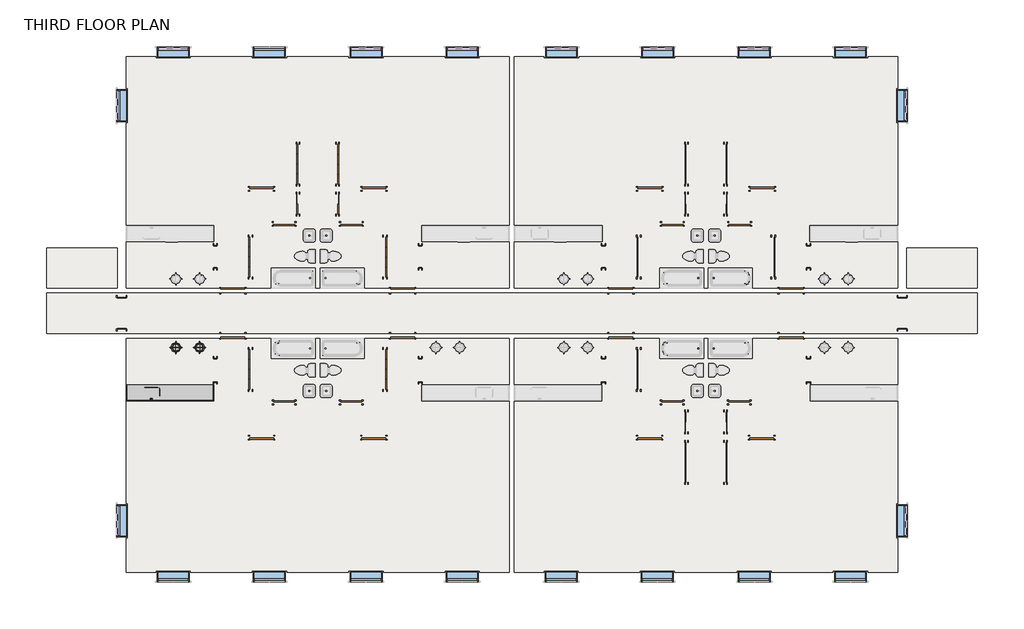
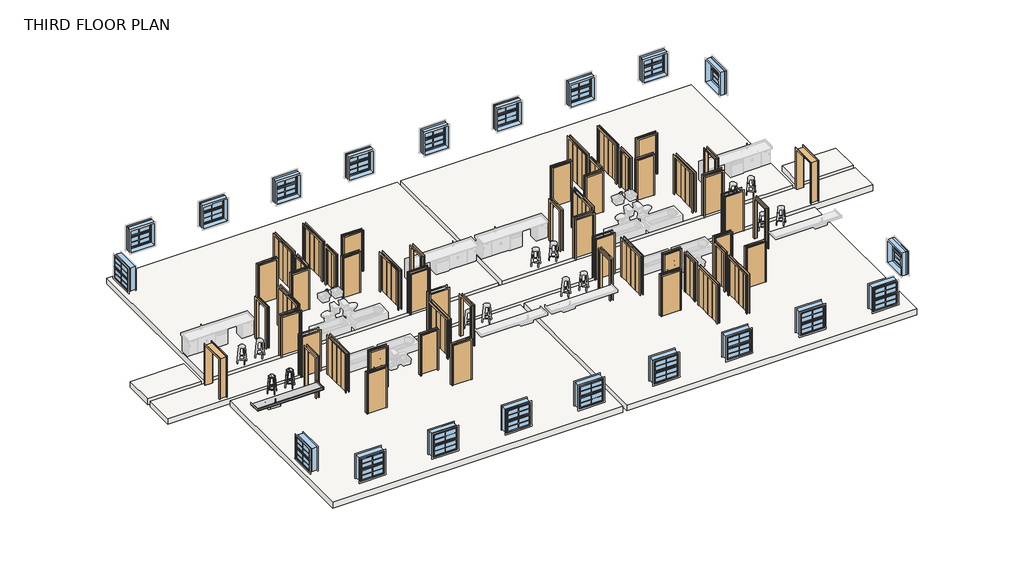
# One storey, part 1 of 3: 57 doors, 20 windows, 3 furniture elements, 3 slabs, 1 flow terminal.
"""IFC4 building model written with IfcOpenShell, lengths in millimetres."""

from ifc_helpers import new_model, si_unit, frame, origin, place, context, project, spatial, polyline, outline, extrude, transform, mapped, element, save
from components import door_3f50ce46, door_64f38517, door_5b7037ea, door_d932cd56, door_980512ef, door_37c67c65, door_ff2ed9a9, door_670c294a, door_0b3bd6c5, door_c8d27089, door_5d578f69, door_dc1527fd, door_ed16ebbe, door_053de108, door_d5256492, door_e5d25033, door_70d702ca, lsy_sink_1a_83b20bf5, lsy_bench_top_24dx36h_2ddf329b, lab_stool_lab_stool_8e3c4d68, lab_stool_lab_stool_061d08b2, window_4464fd46, window_28d7aabf

model = new_model("IFC4")

# Units and contexts
model_context = context("Model", 3, world=origin())
ifc_project = project(units=[si_unit("LENGTHUNIT", "METRE", prefix="MILLI")], contexts=[model_context])

# Site, building, storey
site = spatial("IfcSite", under=ifc_project)
building = spatial("IfcBuilding", under=site)
storey = spatial("IfcBuildingStorey", under=building, Name="THIRD FLOOR PLAN", Elevation=5689.6)

# Doors
placement = place(None, origin())
door_shape = door_3f50ce46(model_context)
element("IfcDoor", 1, ObjectType="Door-Bifold_2-Panel_Flush_SlimFold_Dunbarton : 2'- 6\" x 6' - 8\"", at=placement, inside=storey, context=model_context, shape_type="MappedRepresentation", body=[
    mapped(door_shape, transform((1351.2960171, 1175.3012881, 2844.8), x_axis=(0.0, 1.0, 0.0), y_axis=(-1.0, 0.0, 0.0), z_axis=(0.0, 0.0, 1.0))),
])
element("IfcDoor", 2, ObjectType="Door-Bifold_2-Panel_Flush_SlimFold_Dunbarton : 2'- 6\" x 6' - 8\"", at=placement, inside=storey, context=model_context, shape_type="MappedRepresentation", body=[
    mapped(door_shape, transform((2885.3209578, 9830.6762881, 5689.6), x_axis=(0.0, -1.0, 0.0), y_axis=(1.0, 0.0, 0.0), z_axis=(0.0, 0.0, 1.0))),
])
element("IfcDoor", 3, ObjectType="Door-Bifold_2-Panel_Flush_SlimFold_Dunbarton : 2'- 6\" x 6' - 8\"", at=placement, inside=storey, context=model_context, shape_type="MappedRepresentation", body=[
    mapped(door_shape, transform((17708.9209578, 9830.6762881, 5689.6), x_axis=(0.0, -1.0, 0.0), y_axis=(1.0, 0.0, 0.0), z_axis=(0.0, 0.0, 1.0))),
])
element("IfcDoor", 4, ObjectType="Door-Bifold_2-Panel_Flush_SlimFold_Dunbarton : 2'- 6\" x 6' - 8\"", at=placement, inside=storey, context=model_context, shape_type="MappedRepresentation", body=[
    mapped(door_shape, transform((16176.4960171, 1200.7012881, 5689.6), x_axis=(0.0, 1.0, 0.0), y_axis=(-1.0, 0.0, 0.0), z_axis=(0.0, 0.0, 1.0))),
])
door_2_shape = door_64f38517(model_context)
element("IfcDoor", 5, ObjectType="Door-Bifold_2-Panel_Flush_SlimFold_Dunbarton : 2'- 6\" x 6' - 8\"", at=placement, inside=storey, context=model_context, shape_type="MappedRepresentation", body=[
    mapped(door_2_shape, transform((2885.3209578, 1175.3012881, 2844.8), x_axis=(0.0, 1.0, 0.0), y_axis=(-1.0, 0.0, 0.0), z_axis=(0.0, 0.0, 1.0))),
])
element("IfcDoor", 6, ObjectType="Door-Bifold_2-Panel_Flush_SlimFold_Dunbarton : 2'- 6\" x 6' - 8\"", at=placement, inside=storey, context=model_context, shape_type="MappedRepresentation", body=[
    mapped(door_2_shape, transform((1351.2960171, 9830.6762881, 5689.6), x_axis=(0.0, -1.0, 0.0), y_axis=(1.0, 0.0, 0.0), z_axis=(0.0, 0.0, 1.0))),
])
element("IfcDoor", 7, ObjectType="Door-Bifold_2-Panel_Flush_SlimFold_Dunbarton : 2'- 6\" x 6' - 8\"", at=placement, inside=storey, context=model_context, shape_type="MappedRepresentation", body=[
    mapped(door_2_shape, transform((16176.4960171, 9830.6762881, 5689.6), x_axis=(0.0, -1.0, 0.0), y_axis=(1.0, 0.0, 0.0), z_axis=(0.0, 0.0, 1.0))),
])
element("IfcDoor", 8, ObjectType="Door-Bifold_2-Panel_Flush_SlimFold_Dunbarton : 2'- 6\" x 6' - 8\"", at=placement, inside=storey, context=model_context, shape_type="MappedRepresentation", body=[
    mapped(door_2_shape, transform((17708.9209578, 1200.7012881, 5689.6), x_axis=(0.0, 1.0, 0.0), y_axis=(-1.0, 0.0, 0.0), z_axis=(0.0, 0.0, 1.0))),
])
door_3_shape = door_5b7037ea(model_context)
element("IfcDoor", 9, ObjectType="Door-Bifold 4-Panel Flush SlimFold_Dunbarton : 5'- 0\" x 6' - 8\"", at=placement, inside=storey, context=model_context, shape_type="MappedRepresentation", body=[
    mapped(door_3_shape, transform((1351.2960171, -196.2987119, 2844.8), x_axis=(0.0, 1.0, 0.0), y_axis=(-1.0, 0.0, 0.0), z_axis=(0.0, 0.0, 1.0))),
])
element("IfcDoor", 10, ObjectType="Door-Bifold 4-Panel Flush SlimFold_Dunbarton : 5'- 0\" x 6' - 8\"", at=placement, inside=storey, context=model_context, shape_type="MappedRepresentation", body=[
    mapped(door_3_shape, transform((2885.3209578, 11199.1012881, 5689.6), x_axis=(0.0, -1.0, 0.0), y_axis=(1.0, 0.0, 0.0), z_axis=(0.0, 0.0, 1.0))),
])
element("IfcDoor", 11, ObjectType="Door-Bifold 4-Panel Flush SlimFold_Dunbarton : 5'- 0\" x 6' - 8\"", at=placement, inside=storey, context=model_context, shape_type="MappedRepresentation", body=[
    mapped(door_3_shape, transform((1351.2960171, 11199.1012881, 5689.6), x_axis=(0.0, 1.0, 0.0), y_axis=(-1.0, 0.0, 0.0), z_axis=(0.0, 0.0, 1.0))),
])
element("IfcDoor", 12, ObjectType="Door-Bifold 4-Panel Flush SlimFold_Dunbarton : 5'- 0\" x 6' - 8\"", at=placement, inside=storey, context=model_context, shape_type="MappedRepresentation", body=[
    mapped(door_3_shape, transform((16176.4960171, -199.4737119, 5689.6), x_axis=(0.0, 1.0, 0.0), y_axis=(-1.0, 0.0, 0.0), z_axis=(0.0, 0.0, 1.0))),
])
element("IfcDoor", 13, ObjectType="Door-Bifold 4-Panel Flush SlimFold_Dunbarton : 5'- 0\" x 6' - 8\"", at=placement, inside=storey, context=model_context, shape_type="MappedRepresentation", body=[
    mapped(door_3_shape, transform((17708.9209578, -199.4737119, 5689.6), x_axis=(0.0, -1.0, 0.0), y_axis=(1.0, 0.0, 0.0), z_axis=(0.0, 0.0, 1.0))),
])
door_4_shape = door_d932cd56(model_context)
element("IfcDoor", 14, ObjectType="Door-Bifold 4-Panel Flush SlimFold_Dunbarton : 5'- 0\" x 6' - 8\"", at=placement, inside=storey, context=model_context, shape_type="MappedRepresentation", body=[
    mapped(door_4_shape, transform((4703.0084578, 7654.2137881, 5689.6), x_axis=(0.0, -1.0, 0.0), y_axis=(1.0, 0.0, 0.0), z_axis=(0.0, 0.0, 1.0))),
])
element("IfcDoor", 15, ObjectType="Door-Bifold 4-Panel Flush SlimFold_Dunbarton : 5'- 0\" x 6' - 8\"", at=placement, inside=storey, context=model_context, shape_type="MappedRepresentation", body=[
    mapped(door_4_shape, transform((-466.3914829, 7654.2137881, 5689.6), x_axis=(0.0, 1.0, 0.0), y_axis=(-1.0, 0.0, 0.0), z_axis=(0.0, 0.0, 1.0))),
])
element("IfcDoor", 16, ObjectType="Door-Bifold 4-Panel Flush SlimFold_Dunbarton : 5'- 0\" x 6' - 8\"", at=placement, inside=storey, context=model_context, shape_type="MappedRepresentation", body=[
    mapped(door_4_shape, transform((14358.8085171, 3345.4137881, 5689.6), x_axis=(0.0, 1.0, 0.0), y_axis=(-1.0, 0.0, 0.0), z_axis=(0.0, 0.0, 1.0))),
])
element("IfcDoor", 17, ObjectType="Door-Bifold 4-Panel Flush SlimFold_Dunbarton : 5'- 0\" x 6' - 8\"", at=placement, inside=storey, context=model_context, shape_type="MappedRepresentation", body=[
    mapped(door_4_shape, transform((-466.3914829, 3345.4137881, 5689.6), x_axis=(0.0, 1.0, 0.0), y_axis=(-1.0, 0.0, 0.0), z_axis=(0.0, 0.0, 1.0))),
])
door_5_shape = door_980512ef(model_context)
element("IfcDoor", 18, ObjectType="Door-Bifold 4-Panel Flush SlimFold_Dunbarton : 5'- 0\" x 6' - 8\"", at=placement, inside=storey, context=model_context, shape_type="MappedRepresentation", body=[
    mapped(door_5_shape, transform((14358.8085171, 7654.2137881, 5689.6), x_axis=(0.0, -1.0, 0.0), y_axis=(1.0, 0.0, 0.0), z_axis=(0.0, 0.0, 1.0))),
])
element("IfcDoor", 19, ObjectType="Door-Bifold 4-Panel Flush SlimFold_Dunbarton : 5'- 0\" x 6' - 8\"", at=placement, inside=storey, context=model_context, shape_type="MappedRepresentation", body=[
    mapped(door_5_shape, transform((19526.6084578, 7654.2137881, 5689.6), x_axis=(0.0, 1.0, 0.0), y_axis=(-1.0, 0.0, 0.0), z_axis=(0.0, 0.0, 1.0))),
])
element("IfcDoor", 20, ObjectType="Door-Bifold 4-Panel Flush SlimFold_Dunbarton : 5'- 0\" x 6' - 8\"", at=placement, inside=storey, context=model_context, shape_type="MappedRepresentation", body=[
    mapped(door_5_shape, transform((4703.0084578, 3345.4137881, 5689.6), x_axis=(0.0, 1.0, 0.0), y_axis=(-1.0, 0.0, 0.0), z_axis=(0.0, 0.0, 1.0))),
])
door_6_shape = door_37c67c65(model_context)
element("IfcDoor", 21, ObjectType="Door-Bifold 4-Panel Flush SlimFold_Dunbarton : 5'- 0\" x 6' - 8\"", at=placement, inside=storey, context=model_context, shape_type="MappedRepresentation", body=[
    mapped(door_6_shape, transform((2885.3209578, -196.2987119, 2844.8), x_axis=(0.0, 1.0, 0.0), y_axis=(-1.0, 0.0, 0.0), z_axis=(0.0, 0.0, 1.0))),
])
element("IfcDoor", 22, ObjectType="Door-Bifold 4-Panel Flush SlimFold_Dunbarton : 5'- 0\" x 6' - 8\"", at=placement, inside=storey, context=model_context, shape_type="MappedRepresentation", body=[
    mapped(door_6_shape, transform((16176.4960171, 11199.1012881, 5689.6), x_axis=(0.0, -1.0, 0.0), y_axis=(1.0, 0.0, 0.0), z_axis=(0.0, 0.0, 1.0))),
])
element("IfcDoor", 23, ObjectType="Door-Bifold 4-Panel Flush SlimFold_Dunbarton : 5'- 0\" x 6' - 8\"", at=placement, inside=storey, context=model_context, shape_type="MappedRepresentation", body=[
    mapped(door_6_shape, transform((17708.9209578, 11199.1012881, 5689.6), x_axis=(0.0, 1.0, 0.0), y_axis=(-1.0, 0.0, 0.0), z_axis=(0.0, 0.0, 1.0))),
])
door_7_shape = door_ff2ed9a9(model_context)
element("IfcDoor", 24, ObjectType="M_Opening-Cased : 2'-10\"", at=placement, inside=storey, context=model_context, shape_type="MappedRepresentation", body=[
    mapped(door_7_shape, transform((-1793.4540125, 7662.4024448, 5689.6), x_axis=(0.0, 1.0, 0.0), y_axis=(-1.0, 0.0, 0.0), z_axis=(0.0, 0.0, 1.0))),
])
element("IfcDoor", 25, ObjectType="M_Opening-Cased : 2'-10\"", at=placement, inside=storey, context=model_context, shape_type="MappedRepresentation", body=[
    mapped(door_7_shape, transform((13031.7459875, 7662.4024448, 5689.6), x_axis=(0.0, 1.0, 0.0), y_axis=(-1.0, 0.0, 0.0), z_axis=(0.0, 0.0, 1.0))),
])
door_8_shape = door_670c294a(model_context)
element("IfcDoor", 26, ObjectType="M_Opening-Cased : 2'-10\"", at=placement, inside=storey, context=model_context, shape_type="MappedRepresentation", body=[
    mapped(door_8_shape, transform((20853.6709875, 7662.4024448, 5689.6), x_axis=(0.0, 1.0, 0.0), y_axis=(-1.0, 0.0, 0.0), z_axis=(0.0, 0.0, 1.0))),
])
element("IfcDoor", 27, ObjectType="M_Opening-Cased : 2'-10\"", at=placement, inside=storey, context=model_context, shape_type="MappedRepresentation", body=[
    mapped(door_8_shape, transform((6030.0709875, 7662.4024448, 5689.6), x_axis=(0.0, 1.0, 0.0), y_axis=(-1.0, 0.0, 0.0), z_axis=(0.0, 0.0, 1.0))),
])
door_9_shape = door_0b3bd6c5(model_context)
element("IfcDoor", 28, ObjectType="M_Opening-Cased : 3'-0\"", at=placement, inside=storey, context=model_context, shape_type="MappedRepresentation", body=[
    mapped(door_9_shape, transform((-1793.4540125, 3311.8251313, 5689.6), x_axis=(0.0, -1.0, 0.0), y_axis=(1.0, 0.0, 0.0), z_axis=(0.0, 0.0, 1.0))),
])
element("IfcDoor", 29, ObjectType="M_Opening-Cased : 3'-0\"", at=placement, inside=storey, context=model_context, shape_type="MappedRepresentation", body=[
    mapped(door_9_shape, transform((13031.7459875, 3311.8251313, 5689.6), x_axis=(0.0, -1.0, 0.0), y_axis=(1.0, 0.0, 0.0), z_axis=(0.0, 0.0, 1.0))),
])
door_10_shape = door_c8d27089(model_context)
element("IfcDoor", 30, ObjectType="M_Opening-Cased : 3'-0\"", at=placement, inside=storey, context=model_context, shape_type="MappedRepresentation", body=[
    mapped(door_10_shape, transform((6030.0709875, 3311.8251313, 5689.6), x_axis=(0.0, -1.0, 0.0), y_axis=(1.0, 0.0, 0.0), z_axis=(0.0, 0.0, 1.0))),
])
element("IfcDoor", 31, ObjectType="M_Opening-Cased : 3'-0\"", at=placement, inside=storey, context=model_context, shape_type="MappedRepresentation", body=[
    mapped(door_10_shape, transform((20853.6709875, 3311.8251313, 5689.6), x_axis=(0.0, -1.0, 0.0), y_axis=(1.0, 0.0, 0.0), z_axis=(0.0, 0.0, 1.0))),
])
door_11_shape = door_5d578f69(model_context)
element("IfcDoor", 32, ObjectType="M_Opening-Cased : 4'-0\"", at=placement, inside=storey, context=model_context, shape_type="MappedRepresentation", body=[
    mapped(door_11_shape, transform((-5371.8915125, 5491.6251313, 5689.6), x_axis=(0.0, -1.0, 0.0), y_axis=(1.0, 0.0, 0.0), z_axis=(0.0, 0.0, 1.0))),
])
element("IfcDoor", 33, ObjectType="M_Opening-Cased : 4'-0\"", at=placement, inside=storey, context=model_context, shape_type="MappedRepresentation", body=[
    mapped(door_11_shape, transform((24432.1084875, 5491.6251313, 5689.6), x_axis=(0.0, -1.0, 0.0), y_axis=(1.0, 0.0, 0.0), z_axis=(0.0, 0.0, 1.0))),
])
door_12_shape = door_dc1527fd(model_context)
element("IfcDoor", 34, ObjectType="Single-Flush : 32\" X 84\"", at=placement, inside=storey, context=model_context, shape_type="MappedRepresentation", body=[
    mapped(door_12_shape, transform((834.0209875, 8909.9262881, 5689.6), x_axis=(-1.0, 0.0, 0.0), y_axis=(0.0, -1.0, 0.0), z_axis=(0.0, 0.0, 1.0))),
])
element("IfcDoor", 35, ObjectType="Single-Flush : 32\" X 84\"", at=placement, inside=storey, context=model_context, shape_type="MappedRepresentation", body=[
    mapped(door_12_shape, transform((15658.4209875, 8909.9262881, 5689.6), x_axis=(-1.0, 0.0, 0.0), y_axis=(0.0, -1.0, 0.0), z_axis=(0.0, 0.0, 1.0))),
])
element("IfcDoor", 36, ObjectType="Single-Flush : 32\" X 84\"", at=placement, inside=storey, context=model_context, shape_type="MappedRepresentation", body=[
    mapped(door_12_shape, transform((3396.4084875, 2089.7012881, 5689.6), x_axis=(1.0, 0.0, 0.0), y_axis=(0.0, 1.0, 0.0), z_axis=(0.0, 0.0, 1.0))),
])
element("IfcDoor", 37, ObjectType="Single-Flush : 32\" X 84\"", at=placement, inside=storey, context=model_context, shape_type="MappedRepresentation", body=[
    mapped(door_12_shape, transform((18210.0084875, 2089.7012881, 5689.6), x_axis=(1.0, 0.0, 0.0), y_axis=(0.0, 1.0, 0.0), z_axis=(0.0, 0.0, 1.0))),
])
door_13_shape = door_ed16ebbe(model_context)
element("IfcDoor", 38, ObjectType="Single-Flush : 32\" X 84\"", at=placement, inside=storey, context=model_context, shape_type="MappedRepresentation", body=[
    mapped(door_13_shape, transform((840.2084875, 2089.7012881, 5689.6), x_axis=(-1.0, 0.0, 0.0), y_axis=(0.0, -1.0, 0.0), z_axis=(0.0, 0.0, 1.0))),
])
element("IfcDoor", 39, ObjectType="Single-Flush : 32\" X 84\"", at=placement, inside=storey, context=model_context, shape_type="MappedRepresentation", body=[
    mapped(door_13_shape, transform((3402.5959875, 8909.9262881, 5689.6), x_axis=(1.0, 0.0, 0.0), y_axis=(0.0, 1.0, 0.0), z_axis=(0.0, 0.0, 1.0))),
])
element("IfcDoor", 40, ObjectType="Single-Flush : 32\" X 84\"", at=placement, inside=storey, context=model_context, shape_type="MappedRepresentation", body=[
    mapped(door_13_shape, transform((18226.9959875, 8909.9262881, 5689.6), x_axis=(1.0, 0.0, 0.0), y_axis=(0.0, 1.0, 0.0), z_axis=(0.0, 0.0, 1.0))),
])
element("IfcDoor", 41, ObjectType="Single-Flush : 32\" X 84\"", at=placement, inside=storey, context=model_context, shape_type="MappedRepresentation", body=[
    mapped(door_13_shape, transform((15653.8084875, 2089.7012881, 5689.6), x_axis=(-1.0, 0.0, 0.0), y_axis=(0.0, -1.0, 0.0), z_axis=(0.0, 0.0, 1.0))),
])
door_14_shape = door_053de108(model_context)
element("IfcDoor", 42, ObjectType="Single-Flush : 36' x 84\"", at=placement, inside=storey, context=model_context, shape_type="MappedRepresentation", body=[
    mapped(door_14_shape, transform((-1121.9415125, 4636.2137881, 5689.6), x_axis=(-1.0, 0.0, 0.0), y_axis=(0.0, -1.0, 0.0), z_axis=(0.0, 0.0, 1.0))),
])
element("IfcDoor", 43, ObjectType="Single-Flush : 36' x 84\"", at=placement, inside=storey, context=model_context, shape_type="MappedRepresentation", body=[
    mapped(door_14_shape, transform((5358.5584875, 6363.4137881, 5689.6), x_axis=(1.0, 0.0, 0.0), y_axis=(0.0, 1.0, 0.0), z_axis=(0.0, 0.0, 1.0))),
])
element("IfcDoor", 44, ObjectType="Single-Flush : 36' x 84\"", at=placement, inside=storey, context=model_context, shape_type="MappedRepresentation", body=[
    mapped(door_14_shape, transform((13691.6584875, 4636.2137881, 5689.6), x_axis=(-1.0, 0.0, 0.0), y_axis=(0.0, -1.0, 0.0), z_axis=(0.0, 0.0, 1.0))),
])
element("IfcDoor", 45, ObjectType="Single-Flush : 36' x 84\"", at=placement, inside=storey, context=model_context, shape_type="MappedRepresentation", body=[
    mapped(door_14_shape, transform((20193.7584875, 6363.4137881, 5689.6), x_axis=(1.0, 0.0, 0.0), y_axis=(0.0, 1.0, 0.0), z_axis=(0.0, 0.0, 1.0))),
])
door_15_shape = door_d5256492(model_context)
element("IfcDoor", 46, ObjectType="Single-Flush : 36' x 84\"", at=placement, inside=storey, context=model_context, shape_type="MappedRepresentation", body=[
    mapped(door_15_shape, transform((-1121.9415125, 6363.4137881, 5689.6), x_axis=(-1.0, 0.0, 0.0), y_axis=(0.0, -1.0, 0.0), z_axis=(0.0, 0.0, 1.0))),
])
element("IfcDoor", 47, ObjectType="Single-Flush : 36' x 84\"", at=placement, inside=storey, context=model_context, shape_type="MappedRepresentation", body=[
    mapped(door_15_shape, transform((5358.5584875, 4636.2137881, 5689.6), x_axis=(1.0, 0.0, 0.0), y_axis=(0.0, 1.0, 0.0), z_axis=(0.0, 0.0, 1.0))),
])
element("IfcDoor", 48, ObjectType="Single-Flush : 36' x 84\"", at=placement, inside=storey, context=model_context, shape_type="MappedRepresentation", body=[
    mapped(door_15_shape, transform((13691.6584875, 6363.4137881, 5689.6), x_axis=(-1.0, 0.0, 0.0), y_axis=(0.0, -1.0, 0.0), z_axis=(0.0, 0.0, 1.0))),
])
element("IfcDoor", 49, ObjectType="Single-Flush : 36' x 84\"", at=placement, inside=storey, context=model_context, shape_type="MappedRepresentation", body=[
    mapped(door_15_shape, transform((20193.7584875, 4636.2137881, 5689.6), x_axis=(1.0, 0.0, 0.0), y_axis=(0.0, 1.0, 0.0), z_axis=(0.0, 0.0, 1.0))),
])
door_16_shape = door_e5d25033(model_context)
element("IfcDoor", 50, ObjectType="Single-Flush : 36' x 84\"", at=placement, inside=storey, context=model_context, shape_type="MappedRepresentation", body=[
    mapped(door_16_shape, transform((-23.3915125, 746.6762881, 5689.6), x_axis=(-1.0, 0.0, 0.0), y_axis=(0.0, -1.0, 0.0), z_axis=(0.0, 0.0, 1.0))),
])
element("IfcDoor", 51, ObjectType="Single-Flush : 36' x 84\"", at=placement, inside=storey, context=model_context, shape_type="MappedRepresentation", body=[
    mapped(door_16_shape, transform((14790.2084875, 746.6762881, 5689.6), x_axis=(-1.0, 0.0, 0.0), y_axis=(0.0, -1.0, 0.0), z_axis=(0.0, 0.0, 1.0))),
])
element("IfcDoor", 52, ObjectType="Single-Flush : 36' x 84\"", at=placement, inside=storey, context=model_context, shape_type="MappedRepresentation", body=[
    mapped(door_16_shape, transform((4266.1959875, 10252.9512881, 5689.6), x_axis=(1.0, 0.0, 0.0), y_axis=(0.0, 1.0, 0.0), z_axis=(0.0, 0.0, 1.0))),
])
element("IfcDoor", 53, ObjectType="Single-Flush : 36' x 84\"", at=placement, inside=storey, context=model_context, shape_type="MappedRepresentation", body=[
    mapped(door_16_shape, transform((19090.5959875, 10252.9512881, 5689.6), x_axis=(1.0, 0.0, 0.0), y_axis=(0.0, 1.0, 0.0), z_axis=(0.0, 0.0, 1.0))),
])
door_17_shape = door_70d702ca(model_context)
element("IfcDoor", 54, ObjectType="Single-Flush : 36' x 84\"", at=placement, inside=storey, context=model_context, shape_type="MappedRepresentation", body=[
    mapped(door_17_shape, transform((4260.0084875, 746.6762881, 5689.6), x_axis=(1.0, 0.0, 0.0), y_axis=(0.0, 1.0, 0.0), z_axis=(0.0, 0.0, 1.0))),
])
element("IfcDoor", 55, ObjectType="Single-Flush : 36' x 84\"", at=placement, inside=storey, context=model_context, shape_type="MappedRepresentation", body=[
    mapped(door_17_shape, transform((19073.6084875, 746.6762881, 5689.6), x_axis=(1.0, 0.0, 0.0), y_axis=(0.0, 1.0, 0.0), z_axis=(0.0, 0.0, 1.0))),
])
element("IfcDoor", 56, ObjectType="Single-Flush : 36' x 84\"", at=placement, inside=storey, context=model_context, shape_type="MappedRepresentation", body=[
    mapped(door_17_shape, transform((-29.5790125, 10252.9512881, 5689.6), x_axis=(-1.0, 0.0, 0.0), y_axis=(0.0, -1.0, 0.0), z_axis=(0.0, 0.0, 1.0))),
])
element("IfcDoor", 57, ObjectType="Single-Flush : 36' x 84\"", at=placement, inside=storey, context=model_context, shape_type="MappedRepresentation", body=[
    mapped(door_17_shape, transform((14794.8209875, 10252.9512881, 5689.6), x_axis=(-1.0, 0.0, 0.0), y_axis=(0.0, -1.0, 0.0), z_axis=(0.0, 0.0, 1.0))),
])

# Flow terminal
lsy_sink_1a_shape = lsy_sink_1a_83b20bf5(model_context)
element("IfcFlowTerminal", 58, ObjectType="LSY_Sink_1A : 25\"W x 15\"D", at=placement, inside=storey, context=model_context, shape_type="MappedRepresentation", body=[
    mapped(lsy_sink_1a_shape, transform((-4252.3057531, 2373.0341892, 5651.5), x_axis=(1.0, 0.0, 0.0), y_axis=(0.0, 1.0, 0.0), z_axis=(0.0, 0.0, 1.0))),
])

# Furniture
lsy_bench_top_24dx36h_shape = lsy_bench_top_24dx36h_2ddf329b(model_context)
element("IfcFurniture", 59, ObjectType="LSY_Bench Top : 24Dx36H", at=placement, inside=storey, context=model_context, shape_type="MappedRepresentation", body=[
    mapped(lsy_bench_top_24dx36h_shape, transform((-3055.8288076, 1536.6137881, 5676.9), x_axis=(-1.0, 0.0, 0.0), y_axis=(0.0, -1.0, 0.0), z_axis=(0.0, 0.0, 1.0))),
])
lab_stool_lab_stool_shape = lab_stool_lab_stool_8e3c4d68(model_context)
element("IfcFurniture", 60, ObjectType="Lab Stool : Lab Stool", at=placement, inside=storey, context=model_context, shape_type="MappedRepresentation", body=[
    mapped(lab_stool_lab_stool_shape, transform((-2394.2040125, 4189.2137881, 5689.6), x_axis=(1.0, 0.0, 0.0), y_axis=(0.0, 1.0, 0.0), z_axis=(0.0, 0.0, 1.0))),
])
lab_stool_lab_stool_2_shape = lab_stool_lab_stool_061d08b2(model_context)
element("IfcFurniture", 61, ObjectType="Lab Stool : Lab Stool", at=placement, inside=storey, context=model_context, shape_type="MappedRepresentation", body=[
    mapped(lab_stool_lab_stool_2_shape, transform((-3297.4040125, 4189.2137881, 5689.6), x_axis=(-1.0, 0.0, 0.0), y_axis=(0.0, -1.0, 0.0), z_axis=(0.0, 0.0, 1.0))),
])

# Slabs
element("IfcSlab", 62, ObjectType="MultiFamilyGeneric", at=placement, inside=storey, context=model_context, shape_type="SweptSolid", body=[
    extrude(outline(polyline([(-5546.8915125, 7982.0006), (-5546.8915125, 6460.4137881), (-8237.806756, 6460.4137881), (-8237.806756, 7982.0006), (-5546.8915125, 7982.0006)])), frame((0.0, 0.0, 5384.8), z_axis=(0.0, 0.0, 1.0), x_axis=(1.0, 0.0, 0.0)), (0.0, 0.0, 1.0), 304.8),
])
element("IfcSlab", 63, ObjectType="MultiFamilyGeneric", at=placement, inside=storey, context=model_context, shape_type="SweptSolid", body=[
    extrude(outline(polyline([(24607.1084875, 7982.0006), (27308.0237309, 7982.0006), (27308.0237309, 6460.4137881), (24607.1084875, 6460.4137881), (24607.1084875, 7982.0006)])), frame((0.0, 0.0, 5384.8), z_axis=(0.0, 0.0, 1.0), x_axis=(1.0, 0.0, 0.0)), (0.0, 0.0, 1.0), 304.8),
])
element("IfcSlab", 64, ObjectType="MultiFamilyGeneric", at=placement, inside=storey, context=model_context, shape_type="SweptSolid", body=[
    extrude(outline(polyline([(9433.5084875, 15304.2137881), (9433.5084875, 6460.4137881), (-5196.8915125, 6460.4137881), (-5196.8915125, 15304.2137881), (9433.5084875, 15304.2137881)])), frame((0.0, 0.0, 5384.8), z_axis=(0.0, 0.0, 1.0), x_axis=(1.0, 0.0, 0.0)), (0.0, 0.0, 1.0), 304.8),
    extrude(outline(polyline([(24257.1084875, 15304.2137881), (24257.1084875, 6460.4137881), (9627.5084875, 6460.4137881), (9627.5084875, 15304.2137881), (24257.1084875, 15304.2137881)])), frame((0.0, 0.0, 5384.8), z_axis=(0.0, 0.0, 1.0), x_axis=(1.0, 0.0, 0.0)), (0.0, 0.0, 1.0), 304.8),
    extrude(outline(polyline([(9428.1084875, 4539.2137881), (9428.1084875, -4401.5862119), (-5196.8915125, -4401.5862119), (-5196.8915125, 4539.2137881), (9428.1084875, 4539.2137881)])), frame((0.0, 0.0, 5384.8), z_axis=(0.0, 0.0, 1.0), x_axis=(1.0, 0.0, 0.0)), (0.0, 0.0, 1.0), 304.8),
    extrude(outline(polyline([(24257.1084875, 4539.2137881), (24257.1084875, -4401.5862119), (9622.1084875, -4401.5862119), (9622.1084875, 4539.2137881), (24257.1084875, 4539.2137881)])), frame((0.0, 0.0, 5384.8), z_axis=(0.0, 0.0, 1.0), x_axis=(1.0, 0.0, 0.0)), (0.0, 0.0, 1.0), 304.8),
    extrude(outline(polyline([(27308.0237309, 6266.4137881), (27308.0237309, 4733.2137881), (-8237.806756, 4733.2137881), (-8237.806756, 6266.4137881), (27308.0237309, 6266.4137881)])), frame((0.0, 0.0, 5384.8), z_axis=(0.0, 0.0, 1.0), x_axis=(1.0, 0.0, 0.0)), (0.0, 0.0, 1.0), 304.8),
])

# Windows
window_shape = window_4464fd46(model_context)
element("IfcWindow", 65, ObjectType="Window-Awning-Double-Vertical : 48\" x 48\"", at=placement, inside=storey, context=model_context, shape_type="MappedRepresentation", body=[
    mapped(window_shape, transform((-5371.8915125, 13431.007194, 5689.6), x_axis=(0.0, 1.0, 0.0), y_axis=(-1.0, 0.0, 0.0), z_axis=(0.0, 0.0, 1.0))),
])
element("IfcWindow", 66, ObjectType="Window-Awning-Double-Vertical : 48\" x 48\"", at=placement, inside=storey, context=model_context, shape_type="MappedRepresentation", body=[
    mapped(window_shape, transform((-3399.0477625, 15479.2137881, 5689.6), x_axis=(1.0, 0.0, 0.0), y_axis=(0.0, 1.0, 0.0), z_axis=(0.0, 0.0, 1.0))),
])
element("IfcWindow", 67, ObjectType="Window-Awning-Double-Vertical : 48\" x 48\"", at=placement, inside=storey, context=model_context, shape_type="MappedRepresentation", body=[
    mapped(window_shape, transform((271.9647375, 15479.2137881, 5689.6), x_axis=(1.0, 0.0, 0.0), y_axis=(0.0, 1.0, 0.0), z_axis=(0.0, 0.0, 1.0))),
])
element("IfcWindow", 68, ObjectType="Window-Awning-Double-Vertical : 48\" x 48\"", at=placement, inside=storey, context=model_context, shape_type="MappedRepresentation", body=[
    mapped(window_shape, transform((7635.6647375, -4576.5862119, 5689.6), x_axis=(-1.0, 0.0, 0.0), y_axis=(0.0, -1.0, 0.0), z_axis=(0.0, 0.0, 1.0))),
])
element("IfcWindow", 69, ObjectType="Window-Awning-Double-Vertical : 48\" x 48\"", at=placement, inside=storey, context=model_context, shape_type="MappedRepresentation", body=[
    mapped(window_shape, transform((3964.6522375, -4576.5862119, 5689.6), x_axis=(-1.0, 0.0, 0.0), y_axis=(0.0, -1.0, 0.0), z_axis=(0.0, 0.0, 1.0))),
])
element("IfcWindow", 70, ObjectType="Window-Awning-Double-Vertical : 48\" x 48\"", at=placement, inside=storey, context=model_context, shape_type="MappedRepresentation", body=[
    mapped(window_shape, transform((24432.1084875, -2431.3796179, 5689.6), x_axis=(0.0, -1.0, 0.0), y_axis=(1.0, 0.0, 0.0), z_axis=(0.0, 0.0, 1.0))),
])
element("IfcWindow", 71, ObjectType="Window-Awning-Double-Vertical : 48\" x 48\"", at=placement, inside=storey, context=model_context, shape_type="MappedRepresentation", body=[
    mapped(window_shape, transform((22460.0647375, -4576.5862119, 5689.6), x_axis=(-1.0, 0.0, 0.0), y_axis=(0.0, -1.0, 0.0), z_axis=(0.0, 0.0, 1.0))),
])
element("IfcWindow", 72, ObjectType="Window-Awning-Double-Vertical : 48\" x 48\"", at=placement, inside=storey, context=model_context, shape_type="MappedRepresentation", body=[
    mapped(window_shape, transform((18789.0522375, -4576.5862119, 5689.6), x_axis=(-1.0, 0.0, 0.0), y_axis=(0.0, -1.0, 0.0), z_axis=(0.0, 0.0, 1.0))),
])
element("IfcWindow", 73, ObjectType="Window-Awning-Double-Vertical : 48\" x 48\"", at=placement, inside=storey, context=model_context, shape_type="MappedRepresentation", body=[
    mapped(window_shape, transform((11425.3522375, 15479.2137881, 5689.6), x_axis=(1.0, 0.0, 0.0), y_axis=(0.0, 1.0, 0.0), z_axis=(0.0, 0.0, 1.0))),
])
element("IfcWindow", 74, ObjectType="Window-Awning-Double-Vertical : 48\" x 48\"", at=placement, inside=storey, context=model_context, shape_type="MappedRepresentation", body=[
    mapped(window_shape, transform((15096.3647375, 15479.2137881, 5689.6), x_axis=(1.0, 0.0, 0.0), y_axis=(0.0, 1.0, 0.0), z_axis=(0.0, 0.0, 1.0))),
])
window_2_shape = window_28d7aabf(model_context)
element("IfcWindow", 75, ObjectType="Window-Awning-Double-Vertical : 48\" x 48\"", at=placement, inside=storey, context=model_context, shape_type="MappedRepresentation", body=[
    mapped(window_2_shape, transform((7635.6647375, 15479.2137881, 5689.6), x_axis=(-1.0, 0.0, 0.0), y_axis=(0.0, -1.0, 0.0), z_axis=(0.0, 0.0, 1.0))),
])
element("IfcWindow", 76, ObjectType="Window-Awning-Double-Vertical : 48\" x 48\"", at=placement, inside=storey, context=model_context, shape_type="MappedRepresentation", body=[
    mapped(window_2_shape, transform((3964.6522375, 15479.2137881, 5689.6), x_axis=(-1.0, 0.0, 0.0), y_axis=(0.0, -1.0, 0.0), z_axis=(0.0, 0.0, 1.0))),
])
element("IfcWindow", 77, ObjectType="Window-Awning-Double-Vertical : 48\" x 48\"", at=placement, inside=storey, context=model_context, shape_type="MappedRepresentation", body=[
    mapped(window_2_shape, transform((24432.1084875, 13431.007194, 5689.6), x_axis=(0.0, 1.0, 0.0), y_axis=(-1.0, 0.0, 0.0), z_axis=(0.0, 0.0, 1.0))),
])
element("IfcWindow", 78, ObjectType="Window-Awning-Double-Vertical : 48\" x 48\"", at=placement, inside=storey, context=model_context, shape_type="MappedRepresentation", body=[
    mapped(window_2_shape, transform((22460.0647375, 15479.2137881, 5689.6), x_axis=(-1.0, 0.0, 0.0), y_axis=(0.0, -1.0, 0.0), z_axis=(0.0, 0.0, 1.0))),
])
element("IfcWindow", 79, ObjectType="Window-Awning-Double-Vertical : 48\" x 48\"", at=placement, inside=storey, context=model_context, shape_type="MappedRepresentation", body=[
    mapped(window_2_shape, transform((18789.0522375, 15479.2137881, 5689.6), x_axis=(-1.0, 0.0, 0.0), y_axis=(0.0, -1.0, 0.0), z_axis=(0.0, 0.0, 1.0))),
])
element("IfcWindow", 80, ObjectType="Window-Awning-Double-Vertical : 48\" x 48\"", at=placement, inside=storey, context=model_context, shape_type="MappedRepresentation", body=[
    mapped(window_2_shape, transform((-5371.8915125, -2431.3796179, 5689.6), x_axis=(0.0, -1.0, 0.0), y_axis=(1.0, 0.0, 0.0), z_axis=(0.0, 0.0, 1.0))),
])
element("IfcWindow", 81, ObjectType="Window-Awning-Double-Vertical : 48\" x 48\"", at=placement, inside=storey, context=model_context, shape_type="MappedRepresentation", body=[
    mapped(window_2_shape, transform((-3399.0477625, -4576.5862119, 5689.6), x_axis=(1.0, 0.0, 0.0), y_axis=(0.0, 1.0, 0.0), z_axis=(0.0, 0.0, 1.0))),
])
element("IfcWindow", 82, ObjectType="Window-Awning-Double-Vertical : 48\" x 48\"", at=placement, inside=storey, context=model_context, shape_type="MappedRepresentation", body=[
    mapped(window_2_shape, transform((271.9647375, -4576.5862119, 5689.6), x_axis=(1.0, 0.0, 0.0), y_axis=(0.0, 1.0, 0.0), z_axis=(0.0, 0.0, 1.0))),
])
element("IfcWindow", 83, ObjectType="Window-Awning-Double-Vertical : 48\" x 48\"", at=placement, inside=storey, context=model_context, shape_type="MappedRepresentation", body=[
    mapped(window_2_shape, transform((11414.5522375, -4576.5862119, 5689.6), x_axis=(1.0, 0.0, 0.0), y_axis=(0.0, 1.0, 0.0), z_axis=(0.0, 0.0, 1.0))),
])
element("IfcWindow", 84, ObjectType="Window-Awning-Double-Vertical : 48\" x 48\"", at=placement, inside=storey, context=model_context, shape_type="MappedRepresentation", body=[
    mapped(window_2_shape, transform((15085.5647375, -4576.5862119, 5689.6), x_axis=(1.0, 0.0, 0.0), y_axis=(0.0, 1.0, 0.0), z_axis=(0.0, 0.0, 1.0))),
])

save(model, "model.ifc")
